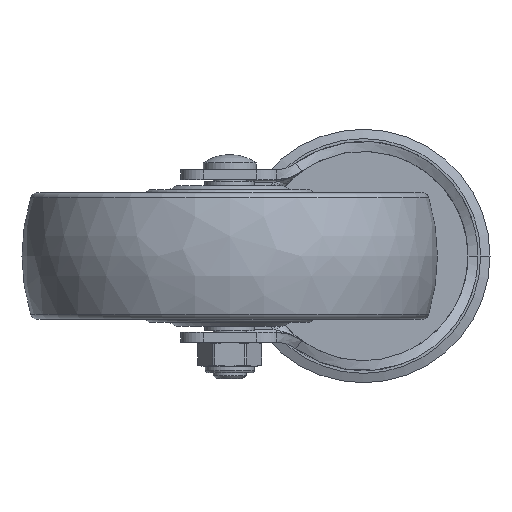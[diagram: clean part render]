
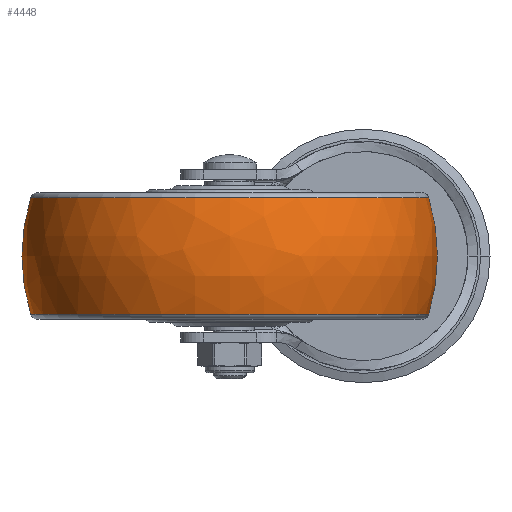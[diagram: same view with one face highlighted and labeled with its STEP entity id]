
A CAD part, front view. The second image highlights one B-rep face of the part: STEP entity #4448.
In plain terms, the highlighted free-form (B-spline) face has degree [3, 3] with [7, 4] control points.
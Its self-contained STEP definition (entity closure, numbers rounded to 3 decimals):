
#3810=CARTESIAN_POINT('',(0.,2.5,0.));
#3811=DIRECTION('',(0.,0.,1.));
#3812=DIRECTION('',(0.293,0.956,0.));
#3813=AXIS2_PLACEMENT_3D('',#3810,#3811,#3812);
#3815=CARTESIAN_POINT('',(0.,-2.5,0.));
#3816=DIRECTION('',(0.,0.,-1.));
#3817=DIRECTION('',(0.293,-0.956,0.));
#3818=AXIS2_PLACEMENT_3D('',#3815,#3816,#3817);
#3820=CARTESIAN_POINT('',(17.586,0.,0.));
#3821=DIRECTION('',(-1.,0.,0.));
#3822=DIRECTION('',(0.,1.,0.));
#3823=AXIS2_PLACEMENT_3D('',#3820,#3821,#3822);
#3835=CARTESIAN_POINT('',(-17.586,0.,0.));
#3836=DIRECTION('',(-1.,0.,0.));
#3837=DIRECTION('',(0.,1.,0.));
#3838=AXIS2_PLACEMENT_3D('',#3835,#3836,#3837);
#4259=CARTESIAN_POINT('',(17.586,59.865,0.));
#4260=CARTESIAN_POINT('',(-17.586,59.865,0.));
#4261=VERTEX_POINT('',#4259);
#4262=VERTEX_POINT('',#4260);
#4299=CARTESIAN_POINT('',(17.586,-59.865,
0.));
#4300=CARTESIAN_POINT('',(-17.586,-59.865,
0.));
#4301=VERTEX_POINT('',#4299);
#4302=VERTEX_POINT('',#4300);
#4411=CARTESIAN_POINT('',(-18.268,-59.534,
3.746));
#4412=CARTESIAN_POINT('',(-6.288,-63.355,
3.986));
#4413=CARTESIAN_POINT('',(6.288,-63.355,3.986));
#4414=CARTESIAN_POINT('',(18.268,-59.534,3.746));
#4415=CARTESIAN_POINT('',(-18.268,-61.839,
-32.891));
#4416=CARTESIAN_POINT('',(-6.288,-65.808,
-35.003));
#4417=CARTESIAN_POINT('',(6.288,-65.808,
-35.003));
#4418=CARTESIAN_POINT('',(18.268,-61.839,
-32.891));
#4419=CARTESIAN_POINT('',(-18.268,-36.709,
-59.652));
#4420=CARTESIAN_POINT('',(-6.288,-39.066,
-63.481));
#4421=CARTESIAN_POINT('',(6.288,-39.066,
-63.481));
#4422=CARTESIAN_POINT('',(18.268,-36.709,
-59.652));
#4423=CARTESIAN_POINT('',(-18.268,0.,
-59.652));
#4424=CARTESIAN_POINT('',(-6.288,0.,
-63.481));
#4425=CARTESIAN_POINT('',(6.288,0.,
-63.481));
#4426=CARTESIAN_POINT('',(18.268,0.,
-59.652));
#4427=CARTESIAN_POINT('',(-18.268,36.709,
-59.652));
#4428=CARTESIAN_POINT('',(-6.288,39.066,
-63.481));
#4429=CARTESIAN_POINT('',(6.288,39.066,-63.481));
#4430=CARTESIAN_POINT('',(18.268,36.709,-59.652));
#4431=CARTESIAN_POINT('',(-18.268,61.839,
-32.891));
#4432=CARTESIAN_POINT('',(-6.288,65.808,
-35.003));
#4433=CARTESIAN_POINT('',(6.288,65.808,-35.003));
#4434=CARTESIAN_POINT('',(18.268,61.839,-32.891));
#4435=CARTESIAN_POINT('',(-18.268,59.534,3.746));
#4436=CARTESIAN_POINT('',(-6.288,63.355,3.986));
#4437=CARTESIAN_POINT('',(6.288,63.355,3.986));
#4438=CARTESIAN_POINT('',(18.268,59.534,3.746));
#4439=(BOUNDED_SURFACE()B_SPLINE_SURFACE(3,3,((#4411,#4412,#4413,#4414),(#4415,
#4416,#4417,#4418),(#4419,#4420,#4421,#4422),(#4423,#4424,#4425,#4426),(#4427,
#4428,#4429,#4430),(#4431,#4432,#4433,#4434),(#4435,#4436,#4437,#4438)),
.UNSPECIFIED.,.F.,.F.,.F.)B_SPLINE_SURFACE_WITH_KNOTS((4,3,4),(4,4),(0.,1.,
2.),(0.,1.),.UNSPECIFIED.)GEOMETRIC_REPRESENTATION_ITEM()RATIONAL_B_SPLINE_SURFACE(((1.216,1.178,1.178,1.216),(
0.96,0.93,0.93,0.96),(
0.96,0.93,0.93,0.96),(
1.216,1.178,1.178,1.216),(
0.96,0.93,0.93,0.96),(
0.96,0.93,0.93,0.96),(
1.216,1.178,1.178,1.216)))REPRESENTATION_ITEM('')SURFACE());
#4440=ORIENTED_EDGE('',*,*,#4400,.T.);
#4442=ORIENTED_EDGE('',*,*,#4441,.T.);
#4443=ORIENTED_EDGE('',*,*,#4404,.F.);
#4445=ORIENTED_EDGE('',*,*,#4444,.F.);
#4446=EDGE_LOOP('',(#4440,#4442,#4443,#4445));
#4447=FACE_OUTER_BOUND('',#4446,.F.);
#3814=CIRCLE('',#3813,60.);
#3819=CIRCLE('',#3818,60.);
#3824=CIRCLE('',#3823,59.865);
#3839=CIRCLE('',#3838,59.865);
#4400=EDGE_CURVE('',#4261,#4262,#3814,.T.);
#4404=EDGE_CURVE('',#4301,#4302,#3819,.T.);
#4441=EDGE_CURVE('',#4262,#4302,#3839,.T.);
#4444=EDGE_CURVE('',#4261,#4301,#3824,.T.);
#4448=ADVANCED_FACE('',(#4447),#4439,.T.);
